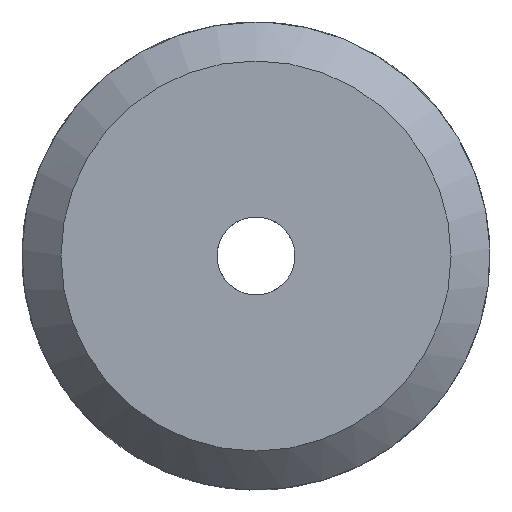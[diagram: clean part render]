
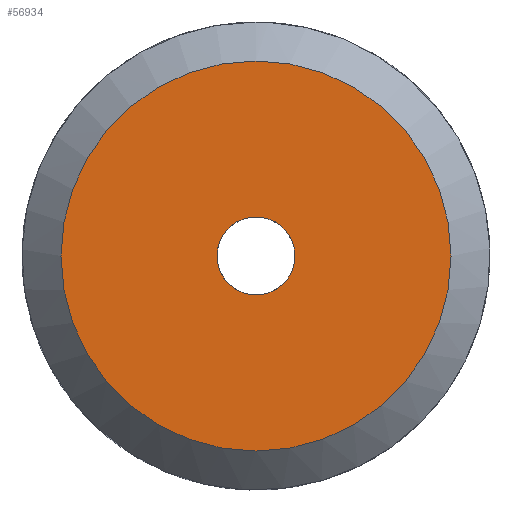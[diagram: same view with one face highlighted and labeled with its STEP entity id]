
A CAD part, left-side view. The second image highlights one B-rep face of the part: STEP entity #56934.
In plain terms, the highlighted planar face has unit normal (-1, 0, 0).
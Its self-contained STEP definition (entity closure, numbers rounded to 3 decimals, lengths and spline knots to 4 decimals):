
#14276=PLANE('',#55987);
#16168=ORIENTED_EDGE('',*,*,#20193,.T.);
#16169=ORIENTED_EDGE('',*,*,#20194,.F.);
#18544=CIRCLE('',#55986,5.);
#18545=CIRCLE('',#55988,1.);
#19135=VERTEX_POINT('',#30207);
#19136=VERTEX_POINT('',#30210);
#20193=EDGE_CURVE('',#19135,#19135,#18544,.T.);
#20194=EDGE_CURVE('',#19136,#19136,#18545,.T.);
#21370=EDGE_LOOP('',(#16168));
#21371=EDGE_LOOP('',(#16169));
#21860=FACE_BOUND('',#21370,.T.);
#21861=FACE_BOUND('',#21371,.T.);
#22697=DIRECTION('',(-1.,0.,0.));
#22698=DIRECTION('',(0.,-5.,0.));
#22699=DIRECTION('',(-1.,0.,0.));
#22700=DIRECTION('',(0.,1.,0.));
#22701=DIRECTION('',(-1.,0.,0.));
#22702=DIRECTION('',(0.,-1.,0.));
#30207=CARTESIAN_POINT('',(54.4217,276.1249,0.));
#30208=CARTESIAN_POINT('',(54.4217,281.1249,0.));
#30209=CARTESIAN_POINT('',(54.4217,276.1249,0.));
#30210=CARTESIAN_POINT('',(54.4217,280.1249,0.));
#30211=CARTESIAN_POINT('',(54.4217,281.1249,0.));
#55986=AXIS2_PLACEMENT_3D('',#30208,#22697,#22698);
#55987=AXIS2_PLACEMENT_3D('',#30209,#22699,#22700);
#55988=AXIS2_PLACEMENT_3D('',#30211,#22701,#22702);
#56934=ADVANCED_FACE('',(#21860,#21861),#14276,.T.);
